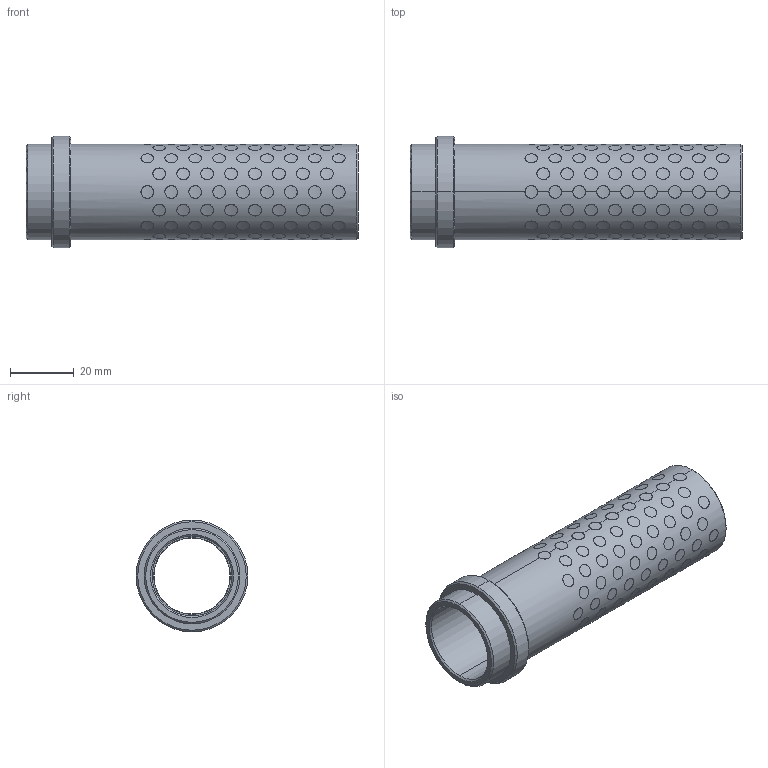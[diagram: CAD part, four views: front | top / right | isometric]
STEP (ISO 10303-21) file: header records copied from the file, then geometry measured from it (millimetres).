
FILE_DESCRIPTION((''),'2;1');
FILE_NAME('G31224096','2017-12-30T',('MANU'),(''),'PRO/ENGINEER BY PARAMETRIC TECHNOLOGY CORPORATION, 2012130','PRO/ENGINEER BY PARAMETRIC TECHNOLOGY CORPORATION, 2012130','');
FILE_SCHEMA(('CONFIG_CONTROL_DESIGN'));
Products named in the file (1): G31224096
Bounding box: 104 x 35 x 35 mm (x, y, z)
Volume: 26528.2 mm3; surface area: 28856.5 mm2
Topology: 137 solids, 137 shells, 843 faces, 1794 edges, 1192 vertices
Faces by surface type: cylinder 826, cone 12, plane 5
Entity records: 40886 total; most frequent: CARTESIAN_POINT 24517, ORIENTED_EDGE 3588, DIRECTION 2352, EDGE_CURVE 1794, VERTEX_POINT 1192, B_SPLINE_CURVE_WITH_KNOTS 1160, EDGE_LOOP 1084, AXIS2_PLACEMENT_3D 875
